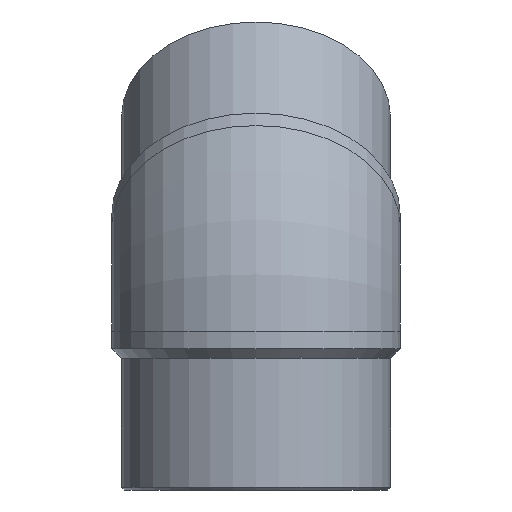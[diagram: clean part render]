
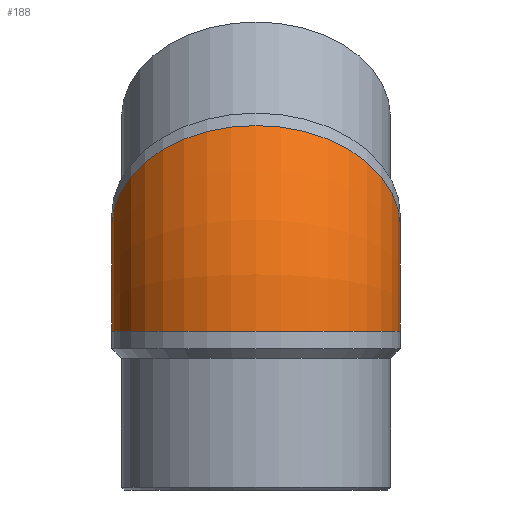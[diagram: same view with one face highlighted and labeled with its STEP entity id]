
A CAD part, left-side view. The second image highlights one B-rep face of the part: STEP entity #188.
In plain terms, the highlighted toroidal (fillet/blend) face has major radius 171.409 mm and minor radius 169 mm.
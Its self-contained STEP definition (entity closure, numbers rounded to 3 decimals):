
#20=TOROIDAL_SURFACE('',#225,171.409,169.);
#53=ORIENTED_EDGE('',*,*,#86,.F.);
#54=ORIENTED_EDGE('',*,*,#87,.T.);
#86=EDGE_CURVE('',#104,#104,#118,.F.);
#87=EDGE_CURVE('',#105,#105,#119,.F.);
#104=VERTEX_POINT('',#349);
#105=VERTEX_POINT('',#352);
#118=CIRCLE('',#224,169.);
#119=CIRCLE('',#226,169.);
#136=EDGE_LOOP('',(#53));
#137=EDGE_LOOP('',(#54));
#163=FACE_BOUND('',#136,.T.);
#164=FACE_BOUND('',#137,.T.);
#188=ADVANCED_FACE('',(#163,#164),#20,.T.);
#224=AXIS2_PLACEMENT_3D('',#348,#270,#271);
#225=AXIS2_PLACEMENT_3D('',#350,#272,#273);
#226=AXIS2_PLACEMENT_3D('',#351,#274,#275);
#270=DIRECTION('',(-0.707,0.,-0.707));
#271=DIRECTION('',(0.707,0.,-0.707));
#272=DIRECTION('',(0.,1.,0.));
#273=DIRECTION('',(0.,0.,1.));
#274=DIRECTION('',(0.,0.,-1.));
#275=DIRECTION('',(1.,0.,0.));
#348=CARTESIAN_POINT('',(50.205,0.,50.205));
#349=CARTESIAN_POINT('',(169.706,0.,-69.296));
#350=CARTESIAN_POINT('',(171.409,0.,-71.));
#351=CARTESIAN_POINT('',(0.,0.,-71.));
#352=CARTESIAN_POINT('',(169.,0.,-71.));
